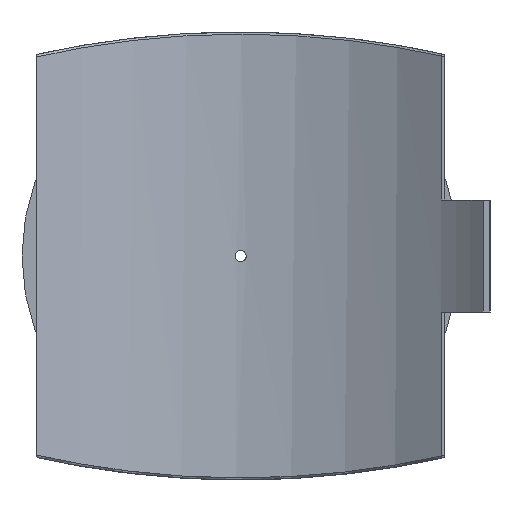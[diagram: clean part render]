
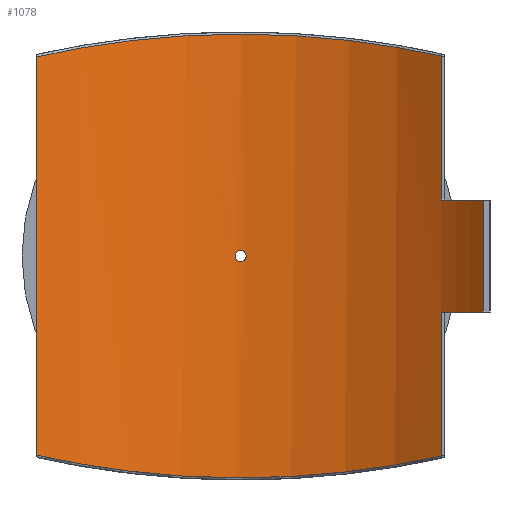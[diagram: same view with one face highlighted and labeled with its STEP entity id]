
A CAD part, front view. The second image highlights one B-rep face of the part: STEP entity #1078.
In plain terms, the highlighted cylindrical face has radius 315 mm (diameter 630 mm), a partial arc.
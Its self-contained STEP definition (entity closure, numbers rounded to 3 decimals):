
#55=FACE_BOUND('',#355,.T.);
#109=B_SPLINE_CURVE_WITH_KNOTS('',3,(#2207,#2208,#2209,#2210,#2211,#2212,
#2213,#2214,#2215,#2216),.UNSPECIFIED.,.F.,.F.,(4,1,1,1,1,1,1,4),(-46.902,
-41.012,-35.122,-29.231,-23.341,
-17.451,-11.561,-5.67),.UNSPECIFIED.);
#110=B_SPLINE_CURVE_WITH_KNOTS('',3,(#2225,#2226,#2227,#2228,#2229,#2230,
#2231,#2232,#2233,#2234),.UNSPECIFIED.,.F.,.F.,(4,1,1,1,1,1,1,4),(-43.73,
-37.84,-31.95,-26.06,-20.169,
-14.279,-8.389,-2.499),.UNSPECIFIED.);
#111=B_SPLINE_CURVE_WITH_KNOTS('',3,(#2237,#2238,#2239,#2240,#2241,#2242,
#2243,#2244,#2245,#2246),.UNSPECIFIED.,.F.,.F.,(4,2,2,2,4),(0.,0.196,
0.392,0.588,0.784),.UNSPECIFIED.);
#112=B_SPLINE_CURVE_WITH_KNOTS('',3,(#2247,#2248,#2249,#2250,#2251,#2252,
#2253,#2254,#2255,#2256,#2257,#2258,#2259,#2260,#2261,#2262,#2263,#2264,
#2265,#2266,#2267,#2268,#2269,#2270,#2271,#2272),.UNSPECIFIED.,.F.,.F.,
(4,2,2,2,2,2,2,2,2,2,2,2,4),(0.784,0.979,1.175,
1.371,1.567,1.763,1.959,2.155,
2.351,2.546,2.742,2.938,3.134),
 .UNSPECIFIED.);
#133=LINE('',#1615,#184);
#144=LINE('',#1899,#195);
#151=LINE('',#2221,#202);
#152=LINE('',#2224,#203);
#184=VECTOR('',#1292,10.);
#195=VECTOR('',#1331,10.);
#202=VECTOR('',#1368,10.);
#203=VECTOR('',#1371,10.);
#244=CYLINDRICAL_SURFACE('',#1175,315.);
#288=FACE_OUTER_BOUND('',#354,.T.);
#354=EDGE_LOOP('',(#839,#840,#841,#842,#843,#844,#845,#846));
#355=EDGE_LOOP('',(#847,#848));
#449=CIRCLE('',#1176,315.);
#450=CIRCLE('',#1177,315.);
#510=VERTEX_POINT('',#1606);
#513=VERTEX_POINT('',#1613);
#533=VERTEX_POINT('',#1892);
#536=VERTEX_POINT('',#1897);
#549=VERTEX_POINT('',#2193);
#550=VERTEX_POINT('',#2218);
#551=VERTEX_POINT('',#2220);
#552=VERTEX_POINT('',#2223);
#553=VERTEX_POINT('',#2235);
#554=VERTEX_POINT('',#2236);
#613=EDGE_CURVE('',#513,#510,#133,.T.);
#643=EDGE_CURVE('',#536,#533,#144,.T.);
#666=EDGE_CURVE('',#549,#536,#109,.T.);
#667=EDGE_CURVE('',#550,#513,#449,.T.);
#668=EDGE_CURVE('',#550,#551,#151,.T.);
#669=EDGE_CURVE('',#533,#551,#450,.T.);
#670=EDGE_CURVE('',#552,#549,#152,.T.);
#671=EDGE_CURVE('',#510,#552,#110,.T.);
#672=EDGE_CURVE('',#553,#554,#111,.T.);
#673=EDGE_CURVE('',#554,#553,#112,.T.);
#839=ORIENTED_EDGE('',*,*,#667,.F.);
#840=ORIENTED_EDGE('',*,*,#668,.T.);
#841=ORIENTED_EDGE('',*,*,#669,.F.);
#842=ORIENTED_EDGE('',*,*,#643,.F.);
#843=ORIENTED_EDGE('',*,*,#666,.F.);
#844=ORIENTED_EDGE('',*,*,#670,.F.);
#845=ORIENTED_EDGE('',*,*,#671,.F.);
#846=ORIENTED_EDGE('',*,*,#613,.F.);
#847=ORIENTED_EDGE('',*,*,#672,.T.);
#848=ORIENTED_EDGE('',*,*,#673,.T.);
#1078=ADVANCED_FACE('',(#288,#55),#244,.F.);
#1175=AXIS2_PLACEMENT_3D('',#2217,#1364,#1365);
#1176=AXIS2_PLACEMENT_3D('',#2219,#1366,#1367);
#1177=AXIS2_PLACEMENT_3D('',#2222,#1369,#1370);
#1292=DIRECTION('',(0.,0.,-1.));
#1331=DIRECTION('',(0.,0.,-1.));
#1364=DIRECTION('center_axis',(0.,0.,1.));
#1365=DIRECTION('ref_axis',(-1.,0.,0.));
#1366=DIRECTION('center_axis',(0.,0.,1.));
#1367=DIRECTION('ref_axis',(-0.722,-0.692,0.));
#1368=DIRECTION('',(0.,0.,1.));
#1369=DIRECTION('center_axis',(0.,0.,-1.));
#1370=DIRECTION('ref_axis',(-0.722,-0.692,0.));
#1371=DIRECTION('',(0.,0.,1.));
#1606=CARTESIAN_POINT('',(188.056,252.705,-187.394));
#1613=CARTESIAN_POINT('',(188.056,252.705,-52.5));
#1615=CARTESIAN_POINT('',(188.056,252.705,0.));
#1892=CARTESIAN_POINT('',(188.056,252.705,52.5));
#1897=CARTESIAN_POINT('',(188.056,252.705,187.394));
#1899=CARTESIAN_POINT('',(188.056,252.705,0.));
#2193=CARTESIAN_POINT('',(-191.25,250.297,186.68));
#2207=CARTESIAN_POINT('Ctrl Pts',(-191.25,250.297,186.68));
#2208=CARTESIAN_POINT('Ctrl Pts',(-175.989,261.958,190.125));
#2209=CARTESIAN_POINT('Ctrl Pts',(-143.266,282.531,196.639));
#2210=CARTESIAN_POINT('Ctrl Pts',(-89.043,304.033,204.04));
#2211=CARTESIAN_POINT('Ctrl Pts',(-31.443,315.254,208.09));
#2212=CARTESIAN_POINT('Ctrl Pts',(27.373,315.636,208.231));
#2213=CARTESIAN_POINT('Ctrl Pts',(85.13,305.152,204.438));
#2214=CARTESIAN_POINT('Ctrl Pts',(139.649,284.338,197.242));
#2215=CARTESIAN_POINT('Ctrl Pts',(172.644,264.175,190.812));
#2216=CARTESIAN_POINT('Ctrl Pts',(188.056,252.705,187.394));
#2217=CARTESIAN_POINT('Origin',(0.,0.,0.));
#2218=CARTESIAN_POINT('',(227.436,217.94,-52.5));
#2219=CARTESIAN_POINT('Origin',(0.,0.,
-52.5));
#2220=CARTESIAN_POINT('',(227.436,217.94,52.5));
#2221=CARTESIAN_POINT('',(227.436,217.94,0.));
#2222=CARTESIAN_POINT('Origin',(0.,0.,
52.5));
#2223=CARTESIAN_POINT('',(-191.25,250.297,-186.68));
#2224=CARTESIAN_POINT('',(-191.25,250.297,0.));
#2225=CARTESIAN_POINT('Ctrl Pts',(188.056,252.705,-187.394));
#2226=CARTESIAN_POINT('Ctrl Pts',(172.644,264.175,-190.812));
#2227=CARTESIAN_POINT('Ctrl Pts',(139.649,284.338,-197.242));
#2228=CARTESIAN_POINT('Ctrl Pts',(85.13,305.153,-204.438));
#2229=CARTESIAN_POINT('Ctrl Pts',(27.372,315.635,-208.23));
#2230=CARTESIAN_POINT('Ctrl Pts',(-31.443,315.256,-208.091));
#2231=CARTESIAN_POINT('Ctrl Pts',(-89.042,304.032,-204.039));
#2232=CARTESIAN_POINT('Ctrl Pts',(-143.266,282.531,-196.639));
#2233=CARTESIAN_POINT('Ctrl Pts',(-175.989,261.958,-190.125));
#2234=CARTESIAN_POINT('Ctrl Pts',(-191.25,250.297,-186.68));
#2235=CARTESIAN_POINT('',(5.2,314.957,0.));
#2236=CARTESIAN_POINT('',(0.,315.,-5.2));
#2237=CARTESIAN_POINT('Ctrl Pts',(5.2,314.957,0.));
#2238=CARTESIAN_POINT('Ctrl Pts',(5.2,314.957,-0.653));
#2239=CARTESIAN_POINT('Ctrl Pts',(5.07,314.959,-1.349));
#2240=CARTESIAN_POINT('Ctrl Pts',(4.539,314.967,-2.631));
#2241=CARTESIAN_POINT('Ctrl Pts',(4.139,314.973,-3.215));
#2242=CARTESIAN_POINT('Ctrl Pts',(3.215,314.984,-4.139));
#2243=CARTESIAN_POINT('Ctrl Pts',(2.631,314.99,-4.539));
#2244=CARTESIAN_POINT('Ctrl Pts',(1.349,314.998,-5.07));
#2245=CARTESIAN_POINT('Ctrl Pts',(0.653,315.,-5.2));
#2246=CARTESIAN_POINT('Ctrl Pts',(0.,315.,-5.2));
#2247=CARTESIAN_POINT('Ctrl Pts',(0.,315.,-5.2));
#2248=CARTESIAN_POINT('Ctrl Pts',(-0.653,315.,-5.2));
#2249=CARTESIAN_POINT('Ctrl Pts',(-1.349,314.998,-5.07));
#2250=CARTESIAN_POINT('Ctrl Pts',(-2.631,314.99,-4.539));
#2251=CARTESIAN_POINT('Ctrl Pts',(-3.215,314.984,-4.139));
#2252=CARTESIAN_POINT('Ctrl Pts',(-4.139,314.973,-3.215));
#2253=CARTESIAN_POINT('Ctrl Pts',(-4.539,314.967,-2.631));
#2254=CARTESIAN_POINT('Ctrl Pts',(-5.07,314.959,-1.349));
#2255=CARTESIAN_POINT('Ctrl Pts',(-5.2,314.957,-0.653));
#2256=CARTESIAN_POINT('Ctrl Pts',(-5.2,314.957,0.653));
#2257=CARTESIAN_POINT('Ctrl Pts',(-5.07,314.959,1.349));
#2258=CARTESIAN_POINT('Ctrl Pts',(-4.539,314.967,2.631));
#2259=CARTESIAN_POINT('Ctrl Pts',(-4.139,314.973,3.215));
#2260=CARTESIAN_POINT('Ctrl Pts',(-3.215,314.984,4.139));
#2261=CARTESIAN_POINT('Ctrl Pts',(-2.631,314.99,4.539));
#2262=CARTESIAN_POINT('Ctrl Pts',(-1.349,314.998,5.07));
#2263=CARTESIAN_POINT('Ctrl Pts',(-0.653,315.,5.2));
#2264=CARTESIAN_POINT('Ctrl Pts',(0.653,315.,5.2));
#2265=CARTESIAN_POINT('Ctrl Pts',(1.349,314.998,5.07));
#2266=CARTESIAN_POINT('Ctrl Pts',(2.631,314.99,4.539));
#2267=CARTESIAN_POINT('Ctrl Pts',(3.215,314.984,4.139));
#2268=CARTESIAN_POINT('Ctrl Pts',(4.139,314.973,3.215));
#2269=CARTESIAN_POINT('Ctrl Pts',(4.539,314.967,2.631));
#2270=CARTESIAN_POINT('Ctrl Pts',(5.07,314.959,1.349));
#2271=CARTESIAN_POINT('Ctrl Pts',(5.2,314.957,0.653));
#2272=CARTESIAN_POINT('Ctrl Pts',(5.2,314.957,0.));
